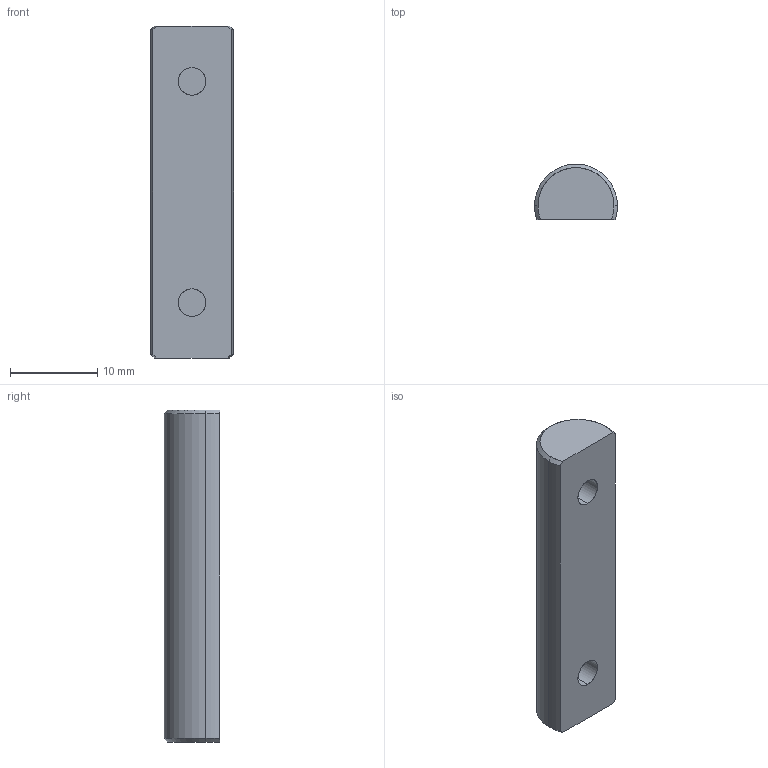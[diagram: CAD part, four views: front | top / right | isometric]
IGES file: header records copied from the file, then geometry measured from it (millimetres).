
Start section: SolidWorks IGES file using analytic representation for surfaces
Global section: file name: D:\Solid_parts\MECHeDESIGN\Bal-Tec\Catalog 105-A\Distribution\IGES\375-TC-BH.IGS; native system: SolidWorks 2005 by SolidWorks Corporation; preprocessor: SolidWorks 2005 by SolidWorks Corporation; author: rvillegas; date: 061205.190028; units: inch
Bounding box: 9.53 x 6.35 x 38.1 mm (x, y, z)
Surface area: 1190.6 mm2 (no closed solid volume)
Topology: 0 solids, 0 shells, 18 faces, 230 edges, 230 vertices
Faces by surface type: revolution 13, bspline 5
